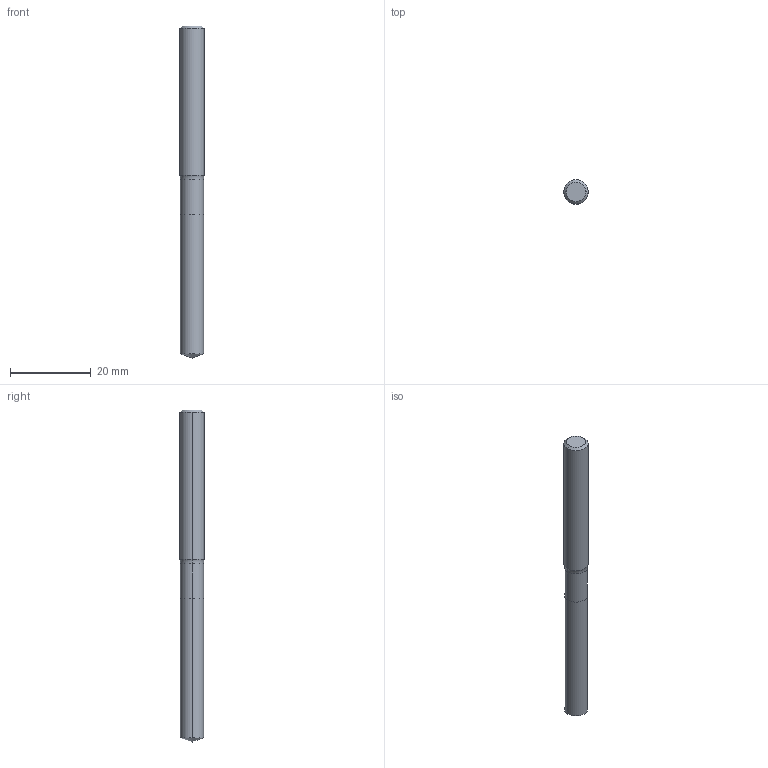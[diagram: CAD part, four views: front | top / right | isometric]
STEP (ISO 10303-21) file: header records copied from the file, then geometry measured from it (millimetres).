
FILE_DESCRIPTION (( 'STEP AP214' ), '1' );
FILE_NAME ('905.057.00_3D-model.step', '2022-02-24T17:40:41', ( '' ), ( '' ), 'SwSTEP 2.0', 'SolidWorks 2020', '' );
FILE_SCHEMA (( 'AUTOMOTIVE_DESIGN' ));
Length unit declared in the file: millimetre
Products named in the file (3): NOCUT-3D^Baugr43; CUT-3D^Baugr43; 905.057.00_3D-model
Assembly tree (2 placements, depth 2):
  905.057.00_3D-model
    CUT-3D^Baugr43
    NOCUT-3D^Baugr43
Bounding box: 6 x 6 x 82 mm (x, y, z)
Volume: 2174.4 mm3; surface area: 1584.6 mm2
Topology: 2 solids, 2 shells, 15 faces, 28 edges, 15 vertices
Faces by surface type: cylinder 6, cone 4, plane 3, torus 2
Entity records: 482 total; most frequent: DIRECTION 88, CARTESIAN_POINT 64, ORIENTED_EDGE 52, AXIS2_PLACEMENT_3D 39, EDGE_CURVE 26, CIRCLE 16, VERTEX_POINT 15, FACE_OUTER_BOUND 15
